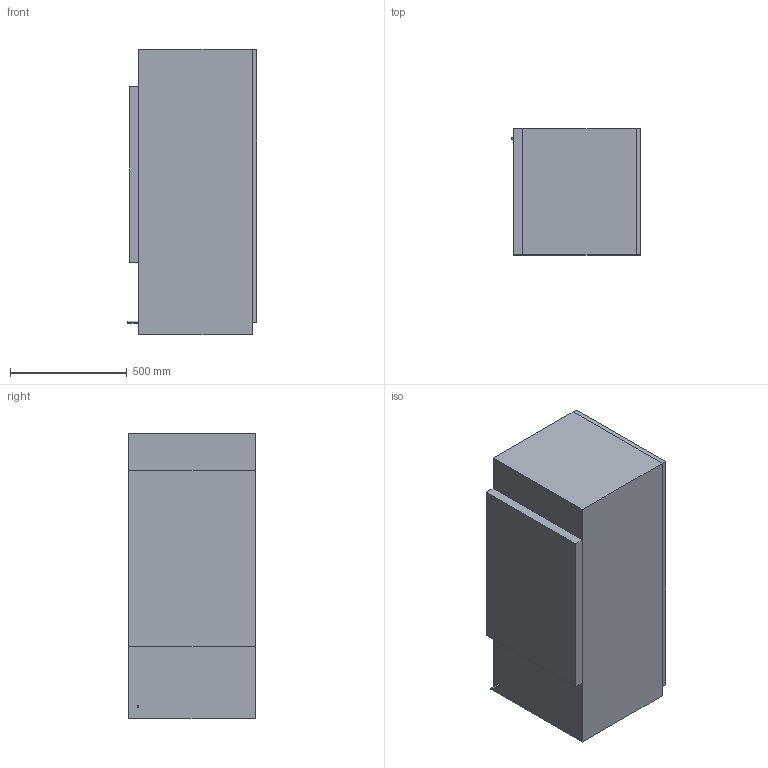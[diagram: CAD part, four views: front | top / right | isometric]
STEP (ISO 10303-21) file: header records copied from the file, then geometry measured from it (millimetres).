
FILE_DESCRIPTION(/* description */ (''),/* implementation_level */ '2;1');
FILE_NAME(/* name */ 'K34122i',/* time_stamp */ '2013-03-12T18:25:23+01:00',/* author */ (''),/* organization */ (''),/* preprocessor_version */ 'ST-DEVELOPER v10',/* originating_system */ '',/* authorisation */ '');
FILE_SCHEMA (('AUTOMOTIVE_DESIGN_CC2'));
Length unit declared in the file: millimetre
Products named in the file (1): 1
Bounding box: 554.1 x 540 x 1218 mm (x, y, z)
Volume: 347153382.9 mm3; surface area: 5261498.2 mm2
Topology: 4 solids, 4 shells, 24 faces, 50 edges, 30 vertices
Faces by surface type: bspline 24
Entity records: 863 total; most frequent: CARTESIAN_POINT 493, ORIENTED_EDGE 92, EDGE_CURVE 46, B_SPLINE_CURVE_WITH_KNOTS 46, VERTEX_POINT 30, ADVANCED_FACE 24, FACE_OUTER_BOUND 24, EDGE_LOOP 24
